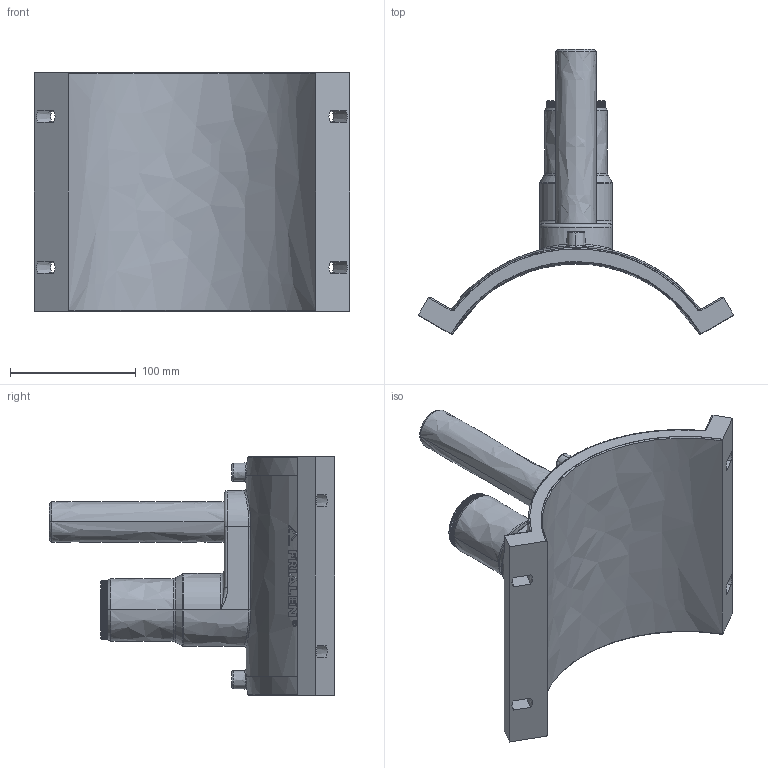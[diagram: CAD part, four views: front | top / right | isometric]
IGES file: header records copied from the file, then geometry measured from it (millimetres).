
Start section:  PTC IGES file: dap_d225_32_01.igs
Global section: file name: dap_d225_32_01.igs; native system: Pro/ENGINEER by Parametric Technology Corporation; preprocessor: 2011490; author: mtunjic; organization: Unknown; date: 20130909.081803; units: millimetre
Bounding box: 250.65 x 227 x 190 mm (x, y, z)
Surface area: 170291.2 mm2 (no closed solid volume)
Topology: 0 solids, 0 shells, 754 faces, 4288 edges, 4288 vertices
Faces by surface type: bspline 754
